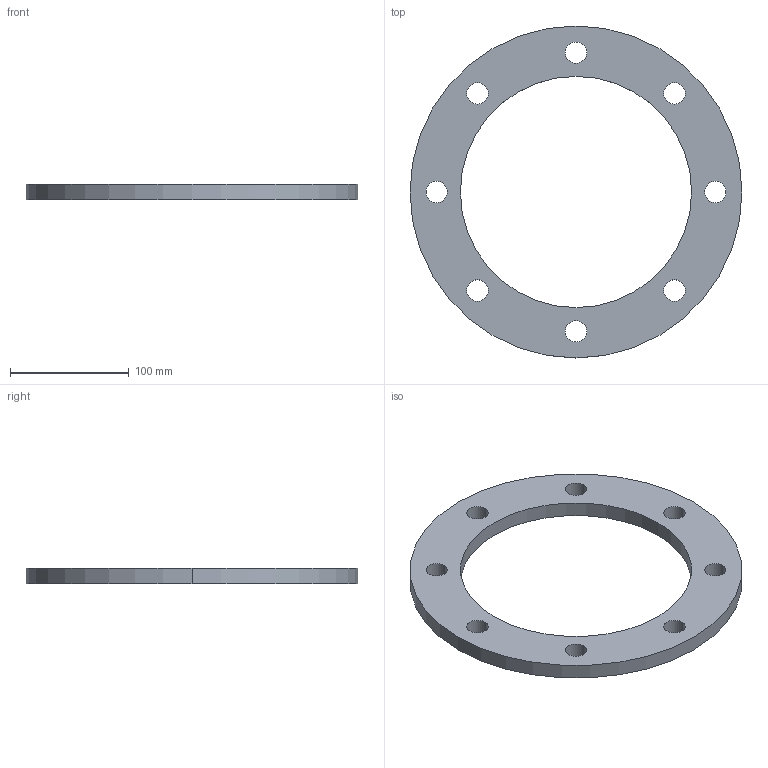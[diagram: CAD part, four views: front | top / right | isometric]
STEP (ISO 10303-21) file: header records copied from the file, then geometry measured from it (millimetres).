
FILE_DESCRIPTION (( 'STEP AP214' ), '1' );
FILE_NAME ('BRD180PN16SS.STEP', '2021-05-14T12:06:34', ( 'D002203' ), ( 'Fusion Group Ltd.' ), 'SwSTEP 2.0', 'SolidWorks 2019', '' );
FILE_SCHEMA (( 'AUTOMOTIVE_DESIGN' ));
Length unit declared in the file: millimetre
Products named in the file (1): BRD180PN16SS
Bounding box: 280 x 280 x 13 mm (x, y, z)
Volume: 385771.1 mm3; surface area: 84629.8 mm2
Topology: 1 solids, 1 shells, 22 faces, 60 edges, 40 vertices
Faces by surface type: cylinder 20, plane 2
Entity records: 794 total; most frequent: DIRECTION 146, CARTESIAN_POINT 123, ORIENTED_EDGE 120, AXIS2_PLACEMENT_3D 63, EDGE_CURVE 60, CIRCLE 40, EDGE_LOOP 40, VERTEX_POINT 40
